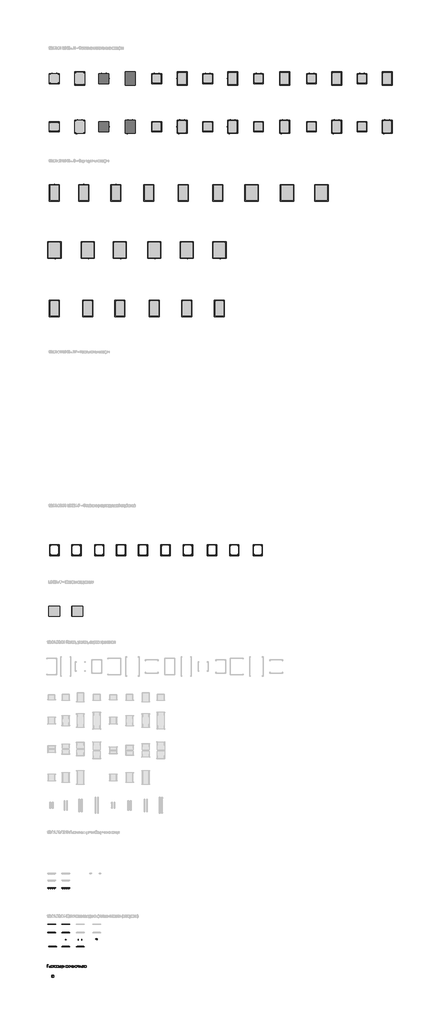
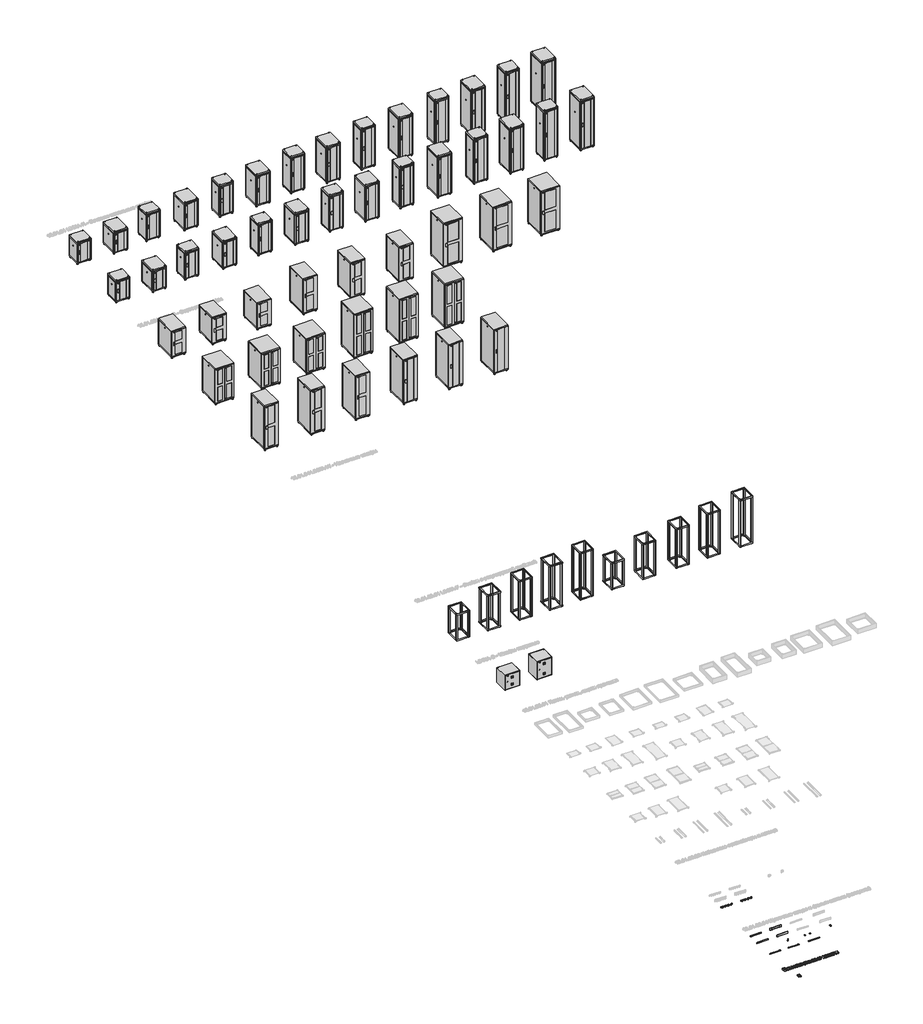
# One storey, part 1 of 9: 76 proxies.
"""IFC4 building model written with IfcOpenShell, lengths in millimetres."""

from ifc_helpers import new_model, si_unit, origin, origin_with_axes, place, context, project, spatial, polyline, outline, extrude, transform, mapped, element, save
from components import electrical_fixtures_c305319c, electrical_fixtures_d6580d29, electrical_fixtures_b4728678, electrical_fixtures_91b9e2a3, electrical_fixtures_15804688, electrical_fixtures_75ca786f, electrical_fixtures_de25d446, electrical_fixtures_8923b778, electrical_fixtures_70bab674, electrical_fixtures_7b50809f, electrical_fixtures_48f60a17, electrical_fixtures_600f5bc7, electrical_fixtures_49b3f98a, electrical_fixtures_ca1bb77e, electrical_fixtures_196bb8f5, electrical_fixtures_9c712314, electrical_fixtures_cc810546, electrical_fixtures_5be799dd, electrical_fixtures_3db55504, electrical_fixtures_a33d25a8, electrical_fixtures_9127867a, generic_models_4512c85f, electrical_fixtures_315027d0, electrical_fixtures_e7b4683d, electrical_fixtures_008fe8da, electrical_fixtures_b37db52b, electrical_fixtures_dada5d97, electrical_fixtures_ec9818e4, electrical_fixtures_1a1d356b, ad05_01u_ed793cdc, be05_01u_52b54abc, be05_02u_7d84ed24, c_1_d9d45bc0, co05_2m4r_d7d3fd6c, er_12_f8e3c18a, er_12_4c35d67a, er_12_a8c64b64, er_12_ffd7bff1, fp05_01u_f00bcd1a, fp05_02u_35c9f280, le05_1u1_5d76734b, lf_80_13a86379

model = new_model("IFC4")

# Units and contexts
model_context = context("Model", 3, world=origin())
ifc_project = project(units=[si_unit("LENGTHUNIT", "METRE", prefix="MILLI")], contexts=[model_context])

# Site, building, storey
site = spatial("IfcSite", under=ifc_project)
building = spatial("IfcBuilding", under=site)
storey = spatial("IfcBuildingStorey", under=building, Name="Уровень 1", Elevation=0.0)

# Proxies
placement = place(None, origin())
element("IfcBuildingElementProxy", 1, Name="Надпись на модели 1", ObjectType="Надпись на модели 1", at=placement, inside=storey, context=model_context, shape_type="SweptSolid", body=[
    extrude(outline(polyline([(-45406.7364088, -45092.1712032), (-45406.7364088, -44944.4788955), (-45350.3782357, -44944.4788955), (-45322.7760722, -44948.8238474), (-45313.5002309, -44954.3361671), (-45306.4779953, -44962.1832224), (-45300.5825626, -44981.0774532), (-45305.5404953, -44998.3310589), (-45320.5224665, -45011.4019724), (-45310.0612285, -45016.8647128), (-45302.3313607, -45025.1760109), (-45297.5582237, -45035.7859868), (-45295.967178, -45048.1447609), (-45300.3121299, -45067.9945205), (-45311.0753511, -45082.1291359), (-45327.139053, -45089.6291359), (-45350.810928, -45092.1712032), (-45406.7364088, -45092.1712032)]), holes=[polyline([(-45388.2748703, -45004.4788955), (-45354.560928, -45004.4788955), (-45334.873428, -45002.892357), (-45323.0284761, -44996.0594243), (-45319.0441011, -44984.0341839), (-45322.7580434, -44971.9909147), (-45333.3950626, -44964.8695205), (-45357.1210242, -44962.9404339), (-45388.2748703, -44962.9404339), (-45388.2748703, -45004.4788955)]), polyline([(-45388.2748703, -45073.7096647), (-45350.4142934, -45073.7096647), (-45336.7123703, -45072.9885109), (-45325.1198222, -45068.9680782), (-45317.4395338, -45060.7649532), (-45314.4287165, -45048.3250493), (-45317.9623703, -45033.9740878), (-45329.4106876, -45025.4103859), (-45352.217178, -45022.9404339), (-45388.2748703, -45022.9404339), (-45388.2748703, -45073.7096647)])]), origin_with_axes(), (0.0, 0.0, 1.0), 50.0),
    extrude(outline(polyline([(-45196.9527549, -45059.8635109), (-45178.8517934, -45062.1712032), (-45185.3737285, -45075.8100253), (-45195.7808799, -45086.0053378), (-45209.8388727, -45092.3605061), (-45227.3133319, -45094.4788955), (-45248.9749905, -45090.8235469), (-45265.6426588, -45079.8575012), (-45276.2706636, -45062.2928979), (-45279.8133319, -45038.8418762), (-45276.2346059, -45014.6020926), (-45265.498428, -44996.4740878), (-45249.0561203, -44985.1700012), (-45228.3590049, -44981.4019724), (-45208.3064208, -44985.1609868), (-45192.2832838, -44996.4380301), (-45181.7769737, -45014.5299772), (-45178.2748703, -45038.7337032), (-45178.3830434, -45043.7096647), (-45261.3517934, -45043.7096647), (-45258.1561804, -45057.5287753), (-45250.732803, -45067.6880301), (-45240.0191612, -45073.9350253), (-45226.9527549, -45076.017357), (-45208.8517934, -45072.1591839), (-45196.9527549, -45059.8635109)]), holes=[polyline([(-45261.3517934, -45025.2481262), (-45196.7364088, -45025.2481262), (-45199.233404, -45015.4945205), (-45204.1282357, -45008.517357), (-45214.8914569, -45002.0269724), (-45228.4311203, -44999.8635109), (-45240.8755314, -45001.5897729), (-45251.1654953, -45006.7685589), (-45258.31844, -45014.8409748), (-45261.3517934, -45025.2481262)])]), origin_with_axes(), (0.0, 0.0, 1.0), 50.0),
    extrude(outline(polyline([(-45159.8133319, -44983.7096647), (-45141.3517934, -44983.7096647), (-45141.3517934, -45025.2481262), (-45092.8902549, -45025.2481262), (-45092.8902549, -44983.7096647), (-45074.4287165, -44983.7096647), (-45074.4287165, -45092.1712032), (-45092.8902549, -45092.1712032), (-45092.8902549, -45043.7096647), (-45141.3517934, -45043.7096647), (-45141.3517934, -45092.1712032), (-45159.8133319, -45092.1712032), (-45159.8133319, -44983.7096647)])), origin_with_axes(), (0.0, 0.0, 1.0), 50.0),
    extrude(outline(polyline([(-45055.967178, -44983.7096647), (-44968.2748703, -44983.7096647), (-44968.2748703, -45002.1712032), (-45002.8902549, -45002.1712032), (-45002.8902549, -45092.1712032), (-45021.3517934, -45092.1712032), (-45021.3517934, -45002.1712032), (-45055.967178, -45002.1712032), (-45055.967178, -44983.7096647)])), origin_with_axes(), (0.0, 0.0, 1.0), 50.0),
    extrude(outline(polyline([(-44952.1210242, -44983.7096647), (-44933.6594857, -44983.7096647), (-44933.6594857, -45066.4260109), (-44888.2989088, -44983.7096647), (-44864.4287165, -44983.7096647), (-44864.4287165, -45092.1712032), (-44882.8902549, -45092.1712032), (-44882.8902549, -45009.9596647), (-44927.9623703, -45092.1712032), (-44952.1210242, -45092.1712032), (-44952.1210242, -44983.7096647)])), origin_with_axes(), (0.0, 0.0, 1.0), 50.0),
    extrude(outline(polyline([(-44827.5056395, -44983.7096647), (-44744.4287165, -44983.7096647), (-44744.4287165, -45092.0630301), (-44762.8902549, -45092.0630301), (-44762.8902549, -45002.1712032), (-44809.0441011, -45002.1712032), (-44809.0441011, -45053.9139916), (-44810.2880915, -45077.7841839), (-44817.1210242, -45087.8623089), (-44833.2748703, -45092.1712032), (-44848.2748703, -45091.2337032), (-44848.2748703, -45073.7096647), (-44840.0176588, -45073.7096647), (-44831.670303, -45072.5738474), (-44828.3349665, -45068.9680782), (-44827.5056395, -45052.8683186), (-44827.5056395, -44983.7096647)])), origin_with_axes(), (0.0, 0.0, 1.0), 50.0),
    extrude(outline(polyline([(-44633.6594857, -44983.7096647), (-44633.6594857, -45092.1712032), (-44652.1210242, -45092.1712032), (-44652.1210242, -45050.6327416), (-44662.1811203, -45050.6327416), (-44675.8830434, -45052.9764916), (-44688.7556395, -45068.7337032), (-44703.467178, -45092.1712032), (-44724.8133319, -45092.1712032), (-44706.279678, -45062.5317801), (-44698.0945819, -45051.8947609), (-44690.5585242, -45047.1712032), (-44703.1787165, -45043.3040157), (-44712.0489088, -45035.9572609), (-44717.295303, -45026.1856262), (-44719.0441011, -45015.0437993), (-44716.655279, -45002.4055782), (-44709.4888126, -44992.3995686), (-44697.7971059, -44985.8821407), (-44681.8325626, -44983.7096647), (-44633.6594857, -44983.7096647)]), holes=[polyline([(-44652.1210242, -45002.1712032), (-44676.4599665, -45002.1712032), (-44689.0305794, -45003.2394123), (-44696.1654953, -45006.4440397), (-44700.5825626, -45016.4500493), (-44698.9554593, -45023.4858065), (-44694.0741492, -45028.3671166), (-44671.0152549, -45032.1712032), (-44652.1210242, -45032.1712032), (-44652.1210242, -45002.1712032)])]), origin_with_axes(), (0.0, 0.0, 1.0), 50.0),
    extrude(outline(polyline([(-44605.967178, -44983.7096647), (-44587.5056395, -44983.7096647), (-44587.5056395, -45073.7096647), (-44534.4287165, -45073.7096647), (-44534.4287165, -44983.7096647), (-44515.967178, -44983.7096647), (-44515.967178, -45073.7096647), (-44504.4287165, -45073.7096647), (-44504.4287165, -45122.1712032), (-44522.8902549, -45122.1712032), (-44522.8902549, -45092.1712032), (-44605.967178, -45092.1712032), (-44605.967178, -44983.7096647)])), origin_with_axes(), (0.0, 0.0, 1.0), 50.0),
    extrude(outline(polyline([(-44488.2748703, -44983.7096647), (-44469.8133319, -44983.7096647), (-44469.8133319, -45066.4260109), (-44424.4527549, -44983.7096647), (-44400.5825626, -44983.7096647), (-44400.5825626, -45092.1712032), (-44419.0441011, -45092.1712032), (-44419.0441011, -45009.9596647), (-44464.1162165, -45092.1712032), (-44488.2748703, -45092.1712032), (-44488.2748703, -44983.7096647)])), origin_with_axes(), (0.0, 0.0, 1.0), 50.0),
    extrude(outline(polyline([(-44377.5056395, -45037.9404339), (-44373.5122501, -45011.7895926), (-44361.5320819, -44993.4091839), (-44346.7303992, -44984.4037753), (-44329.0080434, -44981.4019724), (-44309.6135121, -44985.057321), (-44294.1222261, -44996.0233666), (-44283.9674785, -45013.4347248), (-44280.5825626, -45036.4260109), (-44282.0789569, -45055.0768522), (-44286.5681395, -45069.2745686), (-44293.9194016, -45079.9070806), (-44304.0020338, -45087.8623089), (-44315.9776948, -45092.8247488), (-44329.0080434, -45094.4788955), (-44348.6369496, -45090.8370686), (-44364.1102069, -45079.9115878), (-44374.1567814, -45062.1351455), (-44377.5056395, -45037.9404339)]), holes=[polyline([(-44359.0441011, -45037.9043762), (-44356.9076828, -45054.6126094), (-44350.498428, -45066.5161551), (-44340.8529953, -45073.6420565), (-44329.0080434, -45076.017357), (-44317.217178, -45073.6285349), (-44307.5897742, -45066.4620686), (-44301.1805194, -45054.4007705), (-44299.0441011, -45037.3274532), (-44301.194041, -45021.1059988), (-44307.6438607, -45009.3647128), (-44317.2847862, -45002.2388113), (-44329.0080434, -44999.8635109), (-44340.8529953, -45002.2297969), (-44350.498428, -45009.3286551), (-44356.9076828, -45021.2051575), (-44359.0441011, -45037.9043762)])]), origin_with_axes(), (0.0, 0.0, 1.0), 50.0),
    extrude(outline(polyline([(-44259.8133319, -44983.7096647), (-44241.3517934, -44983.7096647), (-44241.3517934, -45025.2481262), (-44192.8902549, -45025.2481262), (-44192.8902549, -44983.7096647), (-44174.4287165, -44983.7096647), (-44174.4287165, -45092.1712032), (-44192.8902549, -45092.1712032), (-44192.8902549, -45043.7096647), (-44241.3517934, -45043.7096647), (-44241.3517934, -45092.1712032), (-44259.8133319, -45092.1712032), (-44259.8133319, -44983.7096647)])), origin_with_axes(), (0.0, 0.0, 1.0), 50.0),
    extrude(outline(polyline([(-44146.7364088, -44983.7096647), (-44128.2748703, -44983.7096647), (-44128.2748703, -45025.2481262), (-44079.8133319, -45025.2481262), (-44079.8133319, -44983.7096647), (-44061.3517934, -44983.7096647), (-44061.3517934, -45092.1712032), (-44079.8133319, -45092.1712032), (-44079.8133319, -45043.7096647), (-44128.2748703, -45043.7096647), (-44128.2748703, -45092.1712032), (-44146.7364088, -45092.1712032), (-44146.7364088, -44983.7096647)])), origin_with_axes(), (0.0, 0.0, 1.0), 50.0),
    extrude(outline(polyline([(-44033.6594857, -44983.7096647), (-44015.1979472, -44983.7096647), (-44015.1979472, -45022.9404339), (-43992.373428, -45022.9404339), (-43972.6453631, -45025.2526335), (-43958.0284761, -45032.189232), (-43948.9825025, -45043.1913354), (-43945.967178, -45057.7000493), (-43948.4957237, -45070.9106863), (-43956.0813607, -45082.0570205), (-43969.2198823, -45089.6426575), (-43988.4070819, -45092.1712032), (-44033.6594857, -45092.1712032), (-44033.6594857, -44983.7096647)]), holes=[polyline([(-44015.1979472, -45073.7096647), (-43996.2316011, -45073.7096647), (-43971.748428, -45069.8334628), (-43966.2586444, -45064.8710229), (-43964.4287165, -45057.736107), (-43969.8553992, -45046.3779339), (-43978.5588246, -45042.6459628), (-43993.8157357, -45041.4019724), (-44015.1979472, -45041.4019724), (-44015.1979472, -45073.7096647)])]), origin_with_axes(), (0.0, 0.0, 1.0), 50.0),
    extrude(outline(polyline([(-43932.1210242, -44983.7096647), (-43913.6594857, -44983.7096647), (-43913.6594857, -45092.1712032), (-43932.1210242, -45092.1712032), (-43932.1210242, -44983.7096647)])), origin_with_axes(), (0.0, 0.0, 1.0), 50.0),
    extrude(outline(polyline([(-43810.029678, -45059.8635109), (-43791.9287165, -45062.1712032), (-43798.4506516, -45075.8100253), (-43808.857803, -45086.0053378), (-43822.9157958, -45092.3605061), (-43840.3902549, -45094.4788955), (-43862.0519136, -45090.8235469), (-43878.7195819, -45079.8575012), (-43889.3475867, -45062.2928979), (-43892.8902549, -45038.8418762), (-43889.311529, -45014.6020926), (-43878.5753511, -44996.4740878), (-43862.1330434, -44985.1700012), (-43841.435928, -44981.4019724), (-43821.3833439, -44985.1609868), (-43805.3602069, -44996.4380301), (-43794.8538968, -45014.5299772), (-43791.3517934, -45038.7337032), (-43791.4599665, -45043.7096647), (-43874.4287165, -45043.7096647), (-43871.2331035, -45057.5287753), (-43863.8097261, -45067.6880301), (-43853.0960843, -45073.9350253), (-43840.029678, -45076.017357), (-43821.9287165, -45072.1591839), (-43810.029678, -45059.8635109)]), holes=[polyline([(-43874.4287165, -45025.2481262), (-43809.8133319, -45025.2481262), (-43812.310327, -45015.4945205), (-43817.2051588, -45008.517357), (-43827.9683799, -45002.0269724), (-43841.5080434, -44999.8635109), (-43853.9524544, -45001.5897729), (-43864.2424184, -45006.7685589), (-43871.3953631, -45014.8409748), (-43874.4287165, -45025.2481262)])]), origin_with_axes(), (0.0, 0.0, 1.0), 50.0),
    extrude(outline(polyline([(-43715.1979472, -44983.7096647), (-43632.1210242, -44983.7096647), (-43632.1210242, -45092.1712032), (-43650.5825626, -45092.1712032), (-43650.5825626, -45002.1712032), (-43696.7364088, -45002.1712032), (-43696.7364088, -45092.1712032), (-43715.1979472, -45092.1712032), (-43715.1979472, -44983.7096647)])), origin_with_axes(), (0.0, 0.0, 1.0), 50.0),
    extrude(outline(polyline([(-43535.1979472, -45078.3250493), (-43553.1005915, -45090.8370686), (-43572.8782357, -45094.4788955), (-43588.3064208, -45092.2883907), (-43599.6871299, -45085.7168762), (-43606.7048583, -45075.7379099), (-43609.0441011, -45063.3250493), (-43605.5104472, -45048.7216839), (-43596.2255915, -45038.1207224), (-43583.2989088, -45032.0630301), (-43567.3253511, -45029.2865878), (-43535.3061203, -45022.9404339), (-43535.1979472, -45018.829857), (-43536.4689809, -45010.5906743), (-43540.2820819, -45005.2000493), (-43548.8097261, -45001.1976455), (-43560.6907357, -44999.8635109), (-43579.3686203, -45003.4151936), (-43588.2748703, -45016.017357), (-43606.7364088, -45013.7096647), (-43598.7496299, -44995.6808186), (-43582.6678992, -44985.1159147), (-43558.310928, -44981.4019724), (-43535.9371299, -44984.6832224), (-43523.2989088, -44992.9224051), (-43517.6378511, -45005.4524532), (-43516.7364088, -45021.6062993), (-43516.7364088, -45044.5750493), (-43515.7989088, -45076.6483666), (-43512.1210242, -45092.1712032), (-43530.5825626, -45092.1712032), (-43535.1979472, -45078.3250493)]), holes=[polyline([(-43535.1979472, -45041.4019724), (-43564.9816011, -45047.0630301), (-43580.8650145, -45050.0558186), (-43588.0585242, -45054.923607), (-43590.5825626, -45062.0269724), (-43585.0837645, -45072.0149532), (-43568.9479472, -45076.017357), (-43550.2700626, -45071.6002897), (-43538.2267934, -45060.9091839), (-43535.3061203, -45046.6303378), (-43535.1979472, -45041.4019724)])]), origin_with_axes(), (0.0, 0.0, 1.0), 50.0),
    extrude(outline(polyline([(-43491.3517934, -44983.7096647), (-43472.8902549, -44983.7096647), (-43472.8902549, -45025.2481262), (-43424.4287165, -45025.2481262), (-43424.4287165, -44983.7096647), (-43405.967178, -44983.7096647), (-43405.967178, -45092.1712032), (-43424.4287165, -45092.1712032), (-43424.4287165, -45043.7096647), (-43472.8902549, -45043.7096647), (-43472.8902549, -45092.1712032), (-43491.3517934, -45092.1712032), (-43491.3517934, -44983.7096647)])), origin_with_axes(), (0.0, 0.0, 1.0), 50.0),
    extrude(outline(polyline([(-43302.3373703, -45059.8635109), (-43284.2364088, -45062.1712032), (-43290.7583439, -45075.8100253), (-43301.1654953, -45086.0053378), (-43315.2234881, -45092.3605061), (-43332.6979472, -45094.4788955), (-43354.3596059, -45090.8235469), (-43371.0272742, -45079.8575012), (-43381.655279, -45062.2928979), (-43385.1979472, -45038.8418762), (-43381.6192213, -45014.6020926), (-43370.8830434, -44996.4740878), (-43354.4407357, -44985.1700012), (-43333.7436203, -44981.4019724), (-43313.6910362, -44985.1609868), (-43297.6678992, -44996.4380301), (-43287.1615891, -45014.5299772), (-43283.6594857, -45038.7337032), (-43283.7676588, -45043.7096647), (-43366.7364088, -45043.7096647), (-43363.5407958, -45057.5287753), (-43356.1174184, -45067.6880301), (-43345.4037766, -45073.9350253), (-43332.3373703, -45076.017357), (-43314.2364088, -45072.1591839), (-43302.3373703, -45059.8635109)]), holes=[polyline([(-43366.7364088, -45025.2481262), (-43302.1210242, -45025.2481262), (-43304.6180194, -45015.4945205), (-43309.5128511, -45008.517357), (-43320.2760722, -45002.0269724), (-43333.8157357, -44999.8635109), (-43346.2601468, -45001.5897729), (-43356.5501107, -45006.7685589), (-43363.7030554, -45014.8409748), (-43366.7364088, -45025.2481262)])]), origin_with_axes(), (0.0, 0.0, 1.0), 50.0),
    extrude(outline(polyline([(-43255.967178, -44983.7096647), (-43172.8902549, -44983.7096647), (-43172.8902549, -45092.0630301), (-43191.3517934, -45092.0630301), (-43191.3517934, -45002.1712032), (-43237.5056395, -45002.1712032), (-43237.5056395, -45053.9139916), (-43238.7496299, -45077.7841839), (-43245.5825626, -45087.8623089), (-43261.7364088, -45092.1712032), (-43276.7364088, -45091.2337032), (-43276.7364088, -45073.7096647), (-43268.4791972, -45073.7096647), (-43260.1318415, -45072.5738474), (-43256.7965049, -45068.9680782), (-43255.967178, -45052.8683186), (-43255.967178, -44983.7096647)])), origin_with_axes(), (0.0, 0.0, 1.0), 50.0),
    extrude(outline(polyline([(-43145.1979472, -44983.7096647), (-43126.7364088, -44983.7096647), (-43126.7364088, -45066.4260109), (-43081.3758319, -44983.7096647), (-43057.5056395, -44983.7096647), (-43057.5056395, -45092.1712032), (-43075.967178, -45092.1712032), (-43075.967178, -45009.9596647), (-43121.0392934, -45092.1712032), (-43145.1979472, -45092.1712032), (-43145.1979472, -44983.7096647)])), origin_with_axes(), (0.0, 0.0, 1.0), 50.0),
])
electrical_fixtures_shape = electrical_fixtures_c305319c(model_context)
element("IfcBuildingElementProxy", 2, Name="Шкафы ITK серия N_35 : LN35-18U66-G", ObjectType="Шкафы ITK серия N_35 : LN35-18U66-G", at=placement, inside=storey, context=model_context, shape_type="MappedRepresentation", body=[
    mapped(electrical_fixtures_shape, transform((-44976.5734858, 5523.0487173, 0.0), x_axis=(1.0, 0.0, 0.0), y_axis=(0.0, 1.0, 0.0), z_axis=(0.0, 0.0, 1.0))),
])
electrical_fixtures_2_shape = electrical_fixtures_d6580d29(model_context)
element("IfcBuildingElementProxy", 3, Name="Шкафы ITK серия N_35 : LN35-18U68-G", ObjectType="Шкафы ITK серия N_35 : LN35-18U68-G", at=placement, inside=storey, context=model_context, shape_type="MappedRepresentation", body=[
    mapped(electrical_fixtures_2_shape, transform((-43450.3938969, 5523.0487173, 0.0), x_axis=(1.0, 0.0, 0.0), y_axis=(0.0, 1.0, 0.0), z_axis=(0.0, 0.0, 1.0))),
])
electrical_fixtures_3_shape = electrical_fixtures_b4728678(model_context)
element("IfcBuildingElementProxy", 4, Name="Шкафы ITK серия N_35 : LN35-24U66-G", ObjectType="Шкафы ITK серия N_35 : LN35-24U66-G", at=placement, inside=storey, context=model_context, shape_type="MappedRepresentation", body=[
    mapped(electrical_fixtures_3_shape, transform((-41994.4800559, 5523.0487173, 0.0), x_axis=(1.0, 0.0, 0.0), y_axis=(0.0, 1.0, 0.0), z_axis=(0.0, 0.0, 1.0))),
])
electrical_fixtures_4_shape = electrical_fixtures_91b9e2a3(model_context)
element("IfcBuildingElementProxy", 5, Name="Шкафы ITK серия N_35 : LN35-24U68-G", ObjectType="Шкафы ITK серия N_35 : LN35-24U68-G", at=placement, inside=storey, context=model_context, shape_type="MappedRepresentation", body=[
    mapped(electrical_fixtures_4_shape, transform((-40406.3402912, 5523.0487173, 0.0), x_axis=(1.0, 0.0, 0.0), y_axis=(0.0, 1.0, 0.0), z_axis=(0.0, 0.0, 1.0))),
])
electrical_fixtures_5_shape = electrical_fixtures_15804688(model_context)
element("IfcBuildingElementProxy", 6, Name="Шкафы ITK серия N_35 : LN35-28U66-G", ObjectType="Шкафы ITK серия N_35 : LN35-28U66-G", at=placement, inside=storey, context=model_context, shape_type="MappedRepresentation", body=[
    mapped(electrical_fixtures_5_shape, transform((-38819.8616409, 5523.0487173, 0.0), x_axis=(1.0, 0.0, 0.0), y_axis=(0.0, 1.0, 0.0), z_axis=(0.0, 0.0, 1.0))),
])
electrical_fixtures_6_shape = electrical_fixtures_75ca786f(model_context)
element("IfcBuildingElementProxy", 7, Name="Шкафы ITK серия N_35 : LN35-28U68-G", ObjectType="Шкафы ITK серия N_35 : LN35-28U68-G", at=placement, inside=storey, context=model_context, shape_type="MappedRepresentation", body=[
    mapped(electrical_fixtures_6_shape, transform((-37287.2700287, 5523.0487173, 0.0), x_axis=(1.0, 0.0, 0.0), y_axis=(0.0, 1.0, 0.0), z_axis=(0.0, 0.0, 1.0))),
])
electrical_fixtures_7_shape = electrical_fixtures_de25d446(model_context)
element("IfcBuildingElementProxy", 8, Name="Шкафы ITK серия N_35 : LN35-33U66-G", ObjectType="Шкафы ITK серия N_35 : LN35-33U66-G", at=placement, inside=storey, context=model_context, shape_type="MappedRepresentation", body=[
    mapped(electrical_fixtures_7_shape, transform((-35739.9608212, 5523.0487173, 0.0), x_axis=(1.0, 0.0, 0.0), y_axis=(0.0, 1.0, 0.0), z_axis=(0.0, 0.0, 1.0))),
])
electrical_fixtures_8_shape = electrical_fixtures_8923b778(model_context)
element("IfcBuildingElementProxy", 9, Name="Шкафы ITK серия N_35 : LN35-33U68-G", ObjectType="Шкафы ITK серия N_35 : LN35-33U68-G", at=placement, inside=storey, context=model_context, shape_type="MappedRepresentation", body=[
    mapped(electrical_fixtures_8_shape, transform((-34248.1997662, 5523.0487173, 0.0), x_axis=(1.0, 0.0, 0.0), y_axis=(0.0, 1.0, 0.0), z_axis=(0.0, 0.0, 1.0))),
])
electrical_fixtures_9_shape = electrical_fixtures_70bab674(model_context)
element("IfcBuildingElementProxy", 10, Name="Шкафы ITK серия N_35 : LN35-38U66-G", ObjectType="Шкафы ITK серия N_35 : LN35-38U66-G", at=placement, inside=storey, context=model_context, shape_type="MappedRepresentation", body=[
    mapped(electrical_fixtures_9_shape, transform((-32686.1729634, 5523.0487173, 0.0), x_axis=(1.0, 0.0, 0.0), y_axis=(0.0, 1.0, 0.0), z_axis=(0.0, 0.0, 1.0))),
])
electrical_fixtures_10_shape = electrical_fixtures_7b50809f(model_context)
element("IfcBuildingElementProxy", 11, Name="Шкафы ITK серия N_35 : LN35-38U68-G", ObjectType="Шкафы ITK серия N_35 : LN35-38U68-G", at=placement, inside=storey, context=model_context, shape_type="MappedRepresentation", body=[
    mapped(electrical_fixtures_10_shape, transform((-31111.0896796, 5523.0487173, 0.0), x_axis=(1.0, 0.0, 0.0), y_axis=(0.0, 1.0, 0.0), z_axis=(0.0, 0.0, 1.0))),
])
electrical_fixtures_11_shape = electrical_fixtures_48f60a17(model_context)
element("IfcBuildingElementProxy", 12, Name="Шкафы ITK серия N_35 : LN35-42U66-G", ObjectType="Шкафы ITK серия N_35 : LN35-42U66-G", at=placement, inside=storey, context=model_context, shape_type="MappedRepresentation", body=[
    mapped(electrical_fixtures_11_shape, transform((-29495.1758386, 5523.0487173, 0.0), x_axis=(1.0, 0.0, 0.0), y_axis=(0.0, 1.0, 0.0), z_axis=(0.0, 0.0, 1.0))),
])
electrical_fixtures_12_shape = electrical_fixtures_600f5bc7(model_context)
element("IfcBuildingElementProxy", 13, Name="Шкафы ITK серия N_35 : LN35-47U66-G", ObjectType="Шкафы ITK серия N_35 : LN35-47U66-G", at=placement, inside=storey, context=model_context, shape_type="MappedRepresentation", body=[
    mapped(electrical_fixtures_12_shape, transform((-26455.1758386, 5523.0487173, 0.0), x_axis=(1.0, 0.0, 0.0), y_axis=(0.0, 1.0, 0.0), z_axis=(0.0, 0.0, 1.0))),
])
electrical_fixtures_13_shape = electrical_fixtures_49b3f98a(model_context)
element("IfcBuildingElementProxy", 14, Name="Шкафы ITK серия N_35 : LN35-42U68-G", ObjectType="Шкафы ITK серия N_35 : LN35-42U68-G", at=placement, inside=storey, context=model_context, shape_type="MappedRepresentation", body=[
    mapped(electrical_fixtures_13_shape, transform((-27983.7138451, 5523.0487173, 0.0), x_axis=(1.0, 0.0, 0.0), y_axis=(0.0, 1.0, 0.0), z_axis=(0.0, 0.0, 1.0))),
])
electrical_fixtures_14_shape = electrical_fixtures_ca1bb77e(model_context)
element("IfcBuildingElementProxy", 15, Name="Шкафы ITK серия N_35 : LN35-47U68-G", ObjectType="Шкафы ITK серия N_35 : LN35-47U68-G", at=placement, inside=storey, context=model_context, shape_type="MappedRepresentation", body=[
    mapped(electrical_fixtures_14_shape, transform((-24943.7138451, 5523.0487173, 0.0), x_axis=(1.0, 0.0, 0.0), y_axis=(0.0, 1.0, 0.0), z_axis=(0.0, 0.0, 1.0))),
])
element("IfcBuildingElementProxy", 16, Name="Шкафы ITK серия N_05 : LN05-18U66-G", ObjectType="Шкафы ITK серия N_05 : LN05-18U66-G", at=placement, inside=storey, context=model_context, shape_type="MappedRepresentation", body=[
    mapped(electrical_fixtures_shape, transform((-44976.5734858, 8423.0487173, 0.0), x_axis=(1.0, 0.0, 0.0), y_axis=(0.0, 1.0, 0.0), z_axis=(0.0, 0.0, 1.0))),
])
element("IfcBuildingElementProxy", 17, Name="Шкафы ITK серия N_05 : LN05-18U68-G", ObjectType="Шкафы ITK серия N_05 : LN05-18U68-G", at=placement, inside=storey, context=model_context, shape_type="MappedRepresentation", body=[
    mapped(electrical_fixtures_2_shape, transform((-43450.3938969, 8423.0487173, 0.0), x_axis=(1.0, 0.0, 0.0), y_axis=(0.0, 1.0, 0.0), z_axis=(0.0, 0.0, 1.0))),
])
element("IfcBuildingElementProxy", 18, Name="Шкафы ITK серия N_05 : LN05-24U66-G", ObjectType="Шкафы ITK серия N_05 : LN05-24U66-G", at=placement, inside=storey, context=model_context, shape_type="MappedRepresentation", body=[
    mapped(electrical_fixtures_3_shape, transform((-41994.4800559, 8423.0487173, 0.0), x_axis=(1.0, 0.0, 0.0), y_axis=(0.0, 1.0, 0.0), z_axis=(0.0, 0.0, 1.0))),
])
element("IfcBuildingElementProxy", 19, Name="Шкафы ITK серия N_05 : LN05-24U68-G", ObjectType="Шкафы ITK серия N_05 : LN05-24U68-G", at=placement, inside=storey, context=model_context, shape_type="MappedRepresentation", body=[
    mapped(electrical_fixtures_4_shape, transform((-40406.3402912, 8423.0487173, 0.0), x_axis=(1.0, 0.0, 0.0), y_axis=(0.0, 1.0, 0.0), z_axis=(0.0, 0.0, 1.0))),
])
element("IfcBuildingElementProxy", 20, Name="Шкафы ITK серия N_05 : LN05-28U66-G", ObjectType="Шкафы ITK серия N_05 : LN05-28U66-G", at=placement, inside=storey, context=model_context, shape_type="MappedRepresentation", body=[
    mapped(electrical_fixtures_5_shape, transform((-38819.8616409, 8423.0487173, 0.0), x_axis=(1.0, 0.0, 0.0), y_axis=(0.0, 1.0, 0.0), z_axis=(0.0, 0.0, 1.0))),
])
element("IfcBuildingElementProxy", 21, Name="Шкафы ITK серия N_05 : LN05-28U68-G", ObjectType="Шкафы ITK серия N_05 : LN05-28U68-G", at=placement, inside=storey, context=model_context, shape_type="MappedRepresentation", body=[
    mapped(electrical_fixtures_6_shape, transform((-37287.2700287, 8423.0487173, 0.0), x_axis=(1.0, 0.0, 0.0), y_axis=(0.0, 1.0, 0.0), z_axis=(0.0, 0.0, 1.0))),
])
element("IfcBuildingElementProxy", 22, Name="Шкафы ITK серия N_05 : LN05-33U66-G", ObjectType="Шкафы ITK серия N_05 : LN05-33U66-G", at=placement, inside=storey, context=model_context, shape_type="MappedRepresentation", body=[
    mapped(electrical_fixtures_7_shape, transform((-35739.9608212, 8423.0487173, 0.0), x_axis=(1.0, 0.0, 0.0), y_axis=(0.0, 1.0, 0.0), z_axis=(0.0, 0.0, 1.0))),
])
element("IfcBuildingElementProxy", 23, Name="Шкафы ITK серия N_05 : LN05-33U68-G", ObjectType="Шкафы ITK серия N_05 : LN05-33U68-G", at=placement, inside=storey, context=model_context, shape_type="MappedRepresentation", body=[
    mapped(electrical_fixtures_8_shape, transform((-34248.1997662, 8423.0487173, 0.0), x_axis=(1.0, 0.0, 0.0), y_axis=(0.0, 1.0, 0.0), z_axis=(0.0, 0.0, 1.0))),
])
element("IfcBuildingElementProxy", 24, Name="Шкафы ITK серия N_05 : LN05-38U66-G", ObjectType="Шкафы ITK серия N_05 : LN05-38U66-G", at=placement, inside=storey, context=model_context, shape_type="MappedRepresentation", body=[
    mapped(electrical_fixtures_9_shape, transform((-32686.1729634, 8423.0487173, 0.0), x_axis=(1.0, 0.0, 0.0), y_axis=(0.0, 1.0, 0.0), z_axis=(0.0, 0.0, 1.0))),
])
element("IfcBuildingElementProxy", 25, Name="Шкафы ITK серия N_05 : LN05-38U68-G", ObjectType="Шкафы ITK серия N_05 : LN05-38U68-G", at=placement, inside=storey, context=model_context, shape_type="MappedRepresentation", body=[
    mapped(electrical_fixtures_10_shape, transform((-31111.0896796, 8423.0487173, 0.0), x_axis=(1.0, 0.0, 0.0), y_axis=(0.0, 1.0, 0.0), z_axis=(0.0, 0.0, 1.0))),
])
element("IfcBuildingElementProxy", 26, Name="Шкафы ITK серия N_05 : LN05-42U66-G", ObjectType="Шкафы ITK серия N_05 : LN05-42U66-G", at=placement, inside=storey, context=model_context, shape_type="MappedRepresentation", body=[
    mapped(electrical_fixtures_11_shape, transform((-29495.1758386, 8423.0487173, 0.0), x_axis=(1.0, 0.0, 0.0), y_axis=(0.0, 1.0, 0.0), z_axis=(0.0, 0.0, 1.0))),
])
element("IfcBuildingElementProxy", 27, Name="Шкафы ITK серия N_05 : LN05-47U66-G", ObjectType="Шкафы ITK серия N_05 : LN05-47U66-G", at=placement, inside=storey, context=model_context, shape_type="MappedRepresentation", body=[
    mapped(electrical_fixtures_12_shape, transform((-26455.1758386, 8423.0487173, 0.0), x_axis=(1.0, 0.0, 0.0), y_axis=(0.0, 1.0, 0.0), z_axis=(0.0, 0.0, 1.0))),
])
element("IfcBuildingElementProxy", 28, Name="Шкафы ITK серия N_05 : LN05-42U68-G", ObjectType="Шкафы ITK серия N_05 : LN05-42U68-G", at=placement, inside=storey, context=model_context, shape_type="MappedRepresentation", body=[
    mapped(electrical_fixtures_13_shape, transform((-27983.7138451, 8423.0487173, 0.0), x_axis=(1.0, 0.0, 0.0), y_axis=(0.0, 1.0, 0.0), z_axis=(0.0, 0.0, 1.0))),
])
element("IfcBuildingElementProxy", 29, Name="Шкафы ITK серия N_05 : LN05-47U68-G", ObjectType="Шкафы ITK серия N_05 : LN05-47U68-G", at=placement, inside=storey, context=model_context, shape_type="MappedRepresentation", body=[
    mapped(electrical_fixtures_14_shape, transform((-24943.7138451, 8423.0487173, 0.0), x_axis=(1.0, 0.0, 0.0), y_axis=(0.0, 1.0, 0.0), z_axis=(0.0, 0.0, 1.0))),
])
electrical_fixtures_15_shape = electrical_fixtures_196bb8f5(model_context)
element("IfcBuildingElementProxy", 30, Name="Шкафы ITK серия F : LF05-24U68-2R", ObjectType="Шкафы ITK серия F : LF05-24U68-2R", at=placement, inside=storey, context=model_context, shape_type="MappedRepresentation", body=[
    mapped(electrical_fixtures_15_shape, transform((-44976.5734858, -19967.7996616, 0.0), x_axis=(1.0, 0.0, 0.0), y_axis=(0.0, 1.0, 0.0), z_axis=(0.0, 0.0, 1.0))),
])
electrical_fixtures_16_shape = electrical_fixtures_9c712314(model_context)
element("IfcBuildingElementProxy", 31, Name="Шкафы ITK серия F : LF05-33U68-2R", ObjectType="Шкафы ITK серия F : LF05-33U68-2R", at=placement, inside=storey, context=model_context, shape_type="MappedRepresentation", body=[
    mapped(electrical_fixtures_16_shape, transform((-43650.3938969, -19967.7996616, 0.0), x_axis=(1.0, 0.0, 0.0), y_axis=(0.0, 1.0, 0.0), z_axis=(0.0, 0.0, 1.0))),
])
electrical_fixtures_17_shape = electrical_fixtures_cc810546(model_context)
element("IfcBuildingElementProxy", 32, Name="Шкафы ITK серия F : LF05-37U68-2R", ObjectType="Шкафы ITK серия F : LF05-37U68-2R", at=placement, inside=storey, context=model_context, shape_type="MappedRepresentation", body=[
    mapped(electrical_fixtures_17_shape, transform((-42274.4800559, -19967.7996616, 0.0), x_axis=(1.0, 0.0, 0.0), y_axis=(0.0, 1.0, 0.0), z_axis=(0.0, 0.0, 1.0))),
])
electrical_fixtures_18_shape = electrical_fixtures_5be799dd(model_context)
element("IfcBuildingElementProxy", 33, Name="Шкафы ITK серия F : LF05-42U68-2R", ObjectType="Шкафы ITK серия F : LF05-42U68-2R", at=placement, inside=storey, context=model_context, shape_type="MappedRepresentation", body=[
    mapped(electrical_fixtures_18_shape, transform((-40966.3402912, -19967.7996616, 0.0), x_axis=(1.0, 0.0, 0.0), y_axis=(0.0, 1.0, 0.0), z_axis=(0.0, 0.0, 1.0))),
])
electrical_fixtures_19_shape = electrical_fixtures_3db55504(model_context)
element("IfcBuildingElementProxy", 34, Name="Шкафы ITK серия F : LF05-45U68-2R", ObjectType="Шкафы ITK серия F : LF05-45U68-2R", at=placement, inside=storey, context=model_context, shape_type="MappedRepresentation", body=[
    mapped(electrical_fixtures_19_shape, transform((-39639.8616409, -19967.7996616, 0.0), x_axis=(1.0, 0.0, 0.0), y_axis=(0.0, 1.0, 0.0), z_axis=(0.0, 0.0, 1.0))),
])
element("IfcBuildingElementProxy", 35, Name="Шкафы ITK серия F : LF35-24U68-2R", ObjectType="Шкафы ITK серия F : LF35-24U68-2R", at=placement, inside=storey, context=model_context, shape_type="MappedRepresentation", body=[
    mapped(electrical_fixtures_15_shape, transform((-38287.2700287, -19967.7996616, 0.0), x_axis=(1.0, 0.0, 0.0), y_axis=(0.0, 1.0, 0.0), z_axis=(0.0, 0.0, 1.0))),
])
element("IfcBuildingElementProxy", 36, Name="Шкафы ITK серия F : LF35-33U68-2R", ObjectType="Шкафы ITK серия F : LF35-33U68-2R", at=placement, inside=storey, context=model_context, shape_type="MappedRepresentation", body=[
    mapped(electrical_fixtures_16_shape, transform((-36939.9608212, -19967.7996616, 0.0), x_axis=(1.0, 0.0, 0.0), y_axis=(0.0, 1.0, 0.0), z_axis=(0.0, 0.0, 1.0))),
])
element("IfcBuildingElementProxy", 37, Name="Шкафы ITK серия F : LF35-37U68-2R", ObjectType="Шкафы ITK серия F : LF35-37U68-2R", at=placement, inside=storey, context=model_context, shape_type="MappedRepresentation", body=[
    mapped(electrical_fixtures_17_shape, transform((-35488.1997662, -19967.7996616, 0.0), x_axis=(1.0, 0.0, 0.0), y_axis=(0.0, 1.0, 0.0), z_axis=(0.0, 0.0, 1.0))),
])
element("IfcBuildingElementProxy", 38, Name="Шкафы ITK серия F : LF35-42U68-2R", ObjectType="Шкафы ITK серия F : LF35-42U68-2R", at=placement, inside=storey, context=model_context, shape_type="MappedRepresentation", body=[
    mapped(electrical_fixtures_18_shape, transform((-34146.1729634, -19967.7996616, 0.0), x_axis=(1.0, 0.0, 0.0), y_axis=(0.0, 1.0, 0.0), z_axis=(0.0, 0.0, 1.0))),
])
element("IfcBuildingElementProxy", 39, Name="Шкафы ITK серия F : LF35-45U68-2R", ObjectType="Шкафы ITK серия F : LF35-45U68-2R", at=placement, inside=storey, context=model_context, shape_type="MappedRepresentation", body=[
    mapped(electrical_fixtures_19_shape, transform((-32731.0896796, -19967.7996616, 0.0), x_axis=(1.0, 0.0, 0.0), y_axis=(0.0, 1.0, 0.0), z_axis=(0.0, 0.0, 1.0))),
])
electrical_fixtures_20_shape = electrical_fixtures_a33d25a8(model_context)
element("IfcBuildingElementProxy", 40, Name="Шкафы ITK серия O_навесной : LO35-09U66-M55", ObjectType="Шкафы ITK серия O_навесной : LO35-09U66-M55", at=placement, inside=storey, context=model_context, shape_type="MappedRepresentation", body=[
    mapped(electrical_fixtures_20_shape, transform((-44976.5734858, -23642.5391388, 0.0), x_axis=(1.0, 0.0, 0.0), y_axis=(0.0, 1.0, 0.0), z_axis=(0.0, 0.0, 1.0))),
])
electrical_fixtures_21_shape = electrical_fixtures_9127867a(model_context)
element("IfcBuildingElementProxy", 41, Name="Шкафы ITK серия O_навесной : LO35-12U66-M55", ObjectType="Шкафы ITK серия O_навесной : LO35-12U66-M55", at=placement, inside=storey, context=model_context, shape_type="MappedRepresentation", body=[
    mapped(electrical_fixtures_21_shape, transform((-43590.3938969, -23642.5391388, 0.0), x_axis=(1.0, 0.0, 0.0), y_axis=(0.0, 1.0, 0.0), z_axis=(0.0, 0.0, 1.0))),
])
generic_models_shape = generic_models_4512c85f(model_context)
element("IfcBuildingElementProxy", 42, Name="Термостат : TS-A1", ObjectType="Термостат : TS-A1", at=placement, inside=storey, context=model_context, shape_type="MappedRepresentation", body=[
    mapped(generic_models_shape, transform((-42425.8403871, -43381.368894, 0.0), x_axis=(1.0, 0.0, 0.0), y_axis=(0.0, 1.0, 0.0), z_axis=(0.0, 0.0, 1.0))),
])
electrical_fixtures_22_shape = electrical_fixtures_315027d0(model_context)
element("IfcBuildingElementProxy", 43, Name="Шкафы ITK серия S_PP : LS35-42U61-PP-1", ObjectType="Шкафы ITK серия S_PP : LS35-42U61-PP-1", at=placement, inside=storey, context=model_context, shape_type="MappedRepresentation", body=[
    mapped(electrical_fixtures_22_shape, transform((-44976.5734858, -5414.4452785, 0.0), x_axis=(1.0, 0.0, 0.0), y_axis=(0.0, 1.0, 0.0), z_axis=(0.0, 0.0, 1.0))),
])
element("IfcBuildingElementProxy", 44, Name="Шкафы ITK серия S_PP : LS35-42U61-PP-2", ObjectType="Шкафы ITK серия S_PP : LS35-42U61-PP-2", at=placement, inside=storey, context=model_context, shape_type="MappedRepresentation", body=[
    mapped(electrical_fixtures_22_shape, transform((-42970.3938969, -5414.4452785, 0.0), x_axis=(1.0, 0.0, 0.0), y_axis=(0.0, 1.0, 0.0), z_axis=(0.0, 0.0, 1.0))),
])
element("IfcBuildingElementProxy", 45, Name="Шкафы ITK серия S_PP : LS35-42U61-PP-3", ObjectType="Шкафы ITK серия S_PP : LS35-42U61-PP-3", at=placement, inside=storey, context=model_context, shape_type="MappedRepresentation", body=[
    mapped(electrical_fixtures_22_shape, transform((-41034.4800559, -5414.4452785, 0.0), x_axis=(1.0, 0.0, 0.0), y_axis=(0.0, 1.0, 0.0), z_axis=(0.0, 0.0, 1.0))),
])
electrical_fixtures_23_shape = electrical_fixtures_e7b4683d(model_context)
element("IfcBuildingElementProxy", 46, Name="Шкафы ITK серия S_PP : LS05-42U81-PP-1", ObjectType="Шкафы ITK серия S_PP : LS05-42U81-PP-1", at=placement, inside=storey, context=model_context, shape_type="MappedRepresentation", body=[
    mapped(electrical_fixtures_23_shape, transform((-33099.9608212, 1545.5547215, 0.0), x_axis=(1.0, 0.0, 0.0), y_axis=(0.0, 1.0, 0.0), z_axis=(0.0, 0.0, 1.0))),
])
element("IfcBuildingElementProxy", 47, Name="Шкафы ITK серия S_PP : LS05-42U81-PP-2", ObjectType="Шкафы ITK серия S_PP : LS05-42U81-PP-2", at=placement, inside=storey, context=model_context, shape_type="MappedRepresentation", body=[
    mapped(electrical_fixtures_23_shape, transform((-30968.1997662, 1545.5547215, 0.0), x_axis=(1.0, 0.0, 0.0), y_axis=(0.0, 1.0, 0.0), z_axis=(0.0, 0.0, 1.0))),
])
element("IfcBuildingElementProxy", 48, Name="Шкафы ITK серия S_PP : LS05-42U81-PP-3", ObjectType="Шкафы ITK серия S_PP : LS05-42U81-PP-3", at=placement, inside=storey, context=model_context, shape_type="MappedRepresentation", body=[
    mapped(electrical_fixtures_23_shape, transform((-28899.1819388, 1545.5547215, 0.0), x_axis=(1.0, 0.0, 0.0), y_axis=(0.0, 1.0, 0.0), z_axis=(0.0, 0.0, 1.0))),
])
electrical_fixtures_24_shape = electrical_fixtures_008fe8da(model_context)
element("IfcBuildingElementProxy", 49, Name="Шкафы ITK серия S_PP : LS05-24U61-PP-1", ObjectType="Шкафы ITK серия S_PP : LS05-24U61-PP-1", at=placement, inside=storey, context=model_context, shape_type="MappedRepresentation", body=[
    mapped(electrical_fixtures_24_shape, transform((-44976.5734858, 1545.5547215, 0.0), x_axis=(1.0, 0.0, 0.0), y_axis=(0.0, 1.0, 0.0), z_axis=(0.0, 0.0, 1.0))),
])
element("IfcBuildingElementProxy", 50, Name="Шкафы ITK серия S_PP : LS05-24U61-PP-2", ObjectType="Шкафы ITK серия S_PP : LS05-24U61-PP-2", at=placement, inside=storey, context=model_context, shape_type="MappedRepresentation", body=[
    mapped(electrical_fixtures_24_shape, transform((-43210.3938969, 1545.5547215, 0.0), x_axis=(1.0, 0.0, 0.0), y_axis=(0.0, 1.0, 0.0), z_axis=(0.0, 0.0, 1.0))),
])
element("IfcBuildingElementProxy", 51, Name="Шкафы ITK серия S_PP : LS05-24U61-PP-3", ObjectType="Шкафы ITK серия S_PP : LS05-24U61-PP-3", at=placement, inside=storey, context=model_context, shape_type="MappedRepresentation", body=[
    mapped(electrical_fixtures_24_shape, transform((-41274.4800559, 1545.5547215, 0.0), x_axis=(1.0, 0.0, 0.0), y_axis=(0.0, 1.0, 0.0), z_axis=(0.0, 0.0, 1.0))),
])
electrical_fixtures_25_shape = electrical_fixtures_b37db52b(model_context)
element("IfcBuildingElementProxy", 52, Name="Шкафы ITK серия S_PP : LS05-33U61-PP-1", ObjectType="Шкафы ITK серия S_PP : LS05-33U61-PP-1", at=placement, inside=storey, context=model_context, shape_type="MappedRepresentation", body=[
    mapped(electrical_fixtures_25_shape, transform((-39286.3402912, 1545.5547215, 0.0), x_axis=(1.0, 0.0, 0.0), y_axis=(0.0, 1.0, 0.0), z_axis=(0.0, 0.0, 1.0))),
])
element("IfcBuildingElementProxy", 53, Name="Шкафы ITK серия S_PP : LS05-33U61-PP-2", ObjectType="Шкафы ITK серия S_PP : LS05-33U61-PP-2", at=placement, inside=storey, context=model_context, shape_type="MappedRepresentation", body=[
    mapped(electrical_fixtures_25_shape, transform((-37219.8616409, 1545.5547215, 0.0), x_axis=(1.0, 0.0, 0.0), y_axis=(0.0, 1.0, 0.0), z_axis=(0.0, 0.0, 1.0))),
])
element("IfcBuildingElementProxy", 54, Name="Шкафы ITK серия S_PP : LS05-33U61-PP-3", ObjectType="Шкафы ITK серия S_PP : LS05-33U61-PP-3", at=placement, inside=storey, context=model_context, shape_type="MappedRepresentation", body=[
    mapped(electrical_fixtures_25_shape, transform((-35127.2700287, 1545.5547215, 0.0), x_axis=(1.0, 0.0, 0.0), y_axis=(0.0, 1.0, 0.0), z_axis=(0.0, 0.0, 1.0))),
])
electrical_fixtures_26_shape = electrical_fixtures_dada5d97(model_context)
element("IfcBuildingElementProxy", 55, Name="Шкафы ITK серия S_G : LS35-42U61-G-1", ObjectType="Шкафы ITK серия S_G : LS35-42U61-G-1", at=placement, inside=storey, context=model_context, shape_type="MappedRepresentation", body=[
    mapped(electrical_fixtures_26_shape, transform((-38966.3633362, -5414.4452785, 0.0), x_axis=(1.0, 0.0, 0.0), y_axis=(0.0, 1.0, 0.0), z_axis=(0.0, 0.0, 1.0))),
])
element("IfcBuildingElementProxy", 56, Name="Шкафы ITK серия S_G : LS35-42U61-G-2", ObjectType="Шкафы ITK серия S_G : LS35-42U61-G-2", at=placement, inside=storey, context=model_context, shape_type="MappedRepresentation", body=[
    mapped(electrical_fixtures_26_shape, transform((-37004.2921076, -5414.4452785, 0.0), x_axis=(1.0, 0.0, 0.0), y_axis=(0.0, 1.0, 0.0), z_axis=(0.0, 0.0, 1.0))),
])
element("IfcBuildingElementProxy", 57, Name="Шкафы ITK серия S_G : LS35-42U61-G-3", ObjectType="Шкафы ITK серия S_G : LS35-42U61-G-3", at=placement, inside=storey, context=model_context, shape_type="MappedRepresentation", body=[
    mapped(electrical_fixtures_26_shape, transform((-35043.5182092, -5414.4452785, 0.0), x_axis=(1.0, 0.0, 0.0), y_axis=(0.0, 1.0, 0.0), z_axis=(0.0, 0.0, 1.0))),
])
electrical_fixtures_27_shape = electrical_fixtures_ec9818e4(model_context)
element("IfcBuildingElementProxy", 58, Name="Шкафы ITK серия S_2PP : LS05-33U81-2PP-1", ObjectType="Шкафы ITK серия S_2PP : LS05-33U81-2PP-1", at=placement, inside=storey, context=model_context, shape_type="MappedRepresentation", body=[
    mapped(electrical_fixtures_27_shape, transform((-44976.5734858, -1905.3830146, 0.0), x_axis=(1.0, 0.0, 0.0), y_axis=(0.0, 1.0, 0.0), z_axis=(0.0, 0.0, 1.0))),
])
element("IfcBuildingElementProxy", 59, Name="Шкафы ITK серия S_2PP : LS05-33U81-2PP-2", ObjectType="Шкафы ITK серия S_2PP : LS05-33U81-2PP-2", at=placement, inside=storey, context=model_context, shape_type="MappedRepresentation", body=[
    mapped(electrical_fixtures_27_shape, transform((-42970.3938969, -1905.3830146, 0.0), x_axis=(1.0, 0.0, 0.0), y_axis=(0.0, 1.0, 0.0), z_axis=(0.0, 0.0, 1.0))),
])
element("IfcBuildingElementProxy", 60, Name="Шкафы ITK серия S_2PP : LS05-33U81-2PP-3", ObjectType="Шкафы ITK серия S_2PP : LS05-33U81-2PP-3", at=placement, inside=storey, context=model_context, shape_type="MappedRepresentation", body=[
    mapped(electrical_fixtures_27_shape, transform((-41034.4800559, -1905.3830146, 0.0), x_axis=(1.0, 0.0, 0.0), y_axis=(0.0, 1.0, 0.0), z_axis=(0.0, 0.0, 1.0))),
])
electrical_fixtures_28_shape = electrical_fixtures_1a1d356b(model_context)
element("IfcBuildingElementProxy", 61, Name="Шкафы ITK серия S_2PP : LS05-42U81-2PP-1", ObjectType="Шкафы ITK серия S_2PP : LS05-42U81-2PP-1", at=placement, inside=storey, context=model_context, shape_type="MappedRepresentation", body=[
    mapped(electrical_fixtures_28_shape, transform((-38966.3633362, -1905.3830146, 0.0), x_axis=(1.0, 0.0, 0.0), y_axis=(0.0, 1.0, 0.0), z_axis=(0.0, 0.0, 1.0))),
])
element("IfcBuildingElementProxy", 62, Name="Шкафы ITK серия S_2PP : LS05-42U81-2PP-2", ObjectType="Шкафы ITK серия S_2PP : LS05-42U81-2PP-2", at=placement, inside=storey, context=model_context, shape_type="MappedRepresentation", body=[
    mapped(electrical_fixtures_28_shape, transform((-37004.2921076, -1905.3830146, 0.0), x_axis=(1.0, 0.0, 0.0), y_axis=(0.0, 1.0, 0.0), z_axis=(0.0, 0.0, 1.0))),
])
element("IfcBuildingElementProxy", 63, Name="Шкафы ITK серия S_2PP : LS05-42U81-2PP-3", ObjectType="Шкафы ITK серия S_2PP : LS05-42U81-2PP-3", at=placement, inside=storey, context=model_context, shape_type="MappedRepresentation", body=[
    mapped(electrical_fixtures_28_shape, transform((-35043.5182092, -1905.3830146, 0.0), x_axis=(1.0, 0.0, 0.0), y_axis=(0.0, 1.0, 0.0), z_axis=(0.0, 0.0, 1.0))),
])
ad05_01u_shape = ad05_01u_ed793cdc(model_context)
element("IfcBuildingElementProxy", 64, Name="Переходник : AD05-01U", ObjectType="Переходник : AD05-01U", at=placement, inside=storey, context=model_context, shape_type="MappedRepresentation", body=[
    mapped(ad05_01u_shape, transform((-43557.8729167, -43419.7274482, 0.0), x_axis=(1.0, 0.0, 0.0), y_axis=(0.0, 1.0, 0.0), z_axis=(0.0, 0.0, 1.0))),
])
element("IfcBuildingElementProxy", 65, Name="Переходник : AD35-01U", ObjectType="Переходник : AD35-01U", at=placement, inside=storey, context=model_context, shape_type="MappedRepresentation", body=[
    mapped(ad05_01u_shape, transform((-43337.8729167, -43419.7274482, 0.0), x_axis=(1.0, 0.0, 0.0), y_axis=(0.0, 1.0, 0.0), z_axis=(0.0, 0.0, 1.0))),
])
be05_01u_shape = be05_01u_52b54abc(model_context)
element("IfcBuildingElementProxy", 66, Name="Щеточный ввод : BE05-01U", ObjectType="Щеточный ввод : BE05-01U", at=placement, inside=storey, context=model_context, shape_type="MappedRepresentation", body=[
    mapped(be05_01u_shape, transform((-45148.3068058, -42492.9938691, 0.0), x_axis=(1.0, 0.0, 0.0), y_axis=(0.0, 1.0, 0.0), z_axis=(0.0, 0.0, 1.0))),
])
be05_02u_shape = be05_02u_7d84ed24(model_context)
element("IfcBuildingElementProxy", 67, Name="Щеточный ввод : BE05-02U", ObjectType="Щеточный ввод : BE05-02U", at=placement, inside=storey, context=model_context, shape_type="MappedRepresentation", body=[
    mapped(be05_02u_shape, transform((-44292.6745028, -42492.9938691, 0.0), x_axis=(1.0, 0.0, 0.0), y_axis=(0.0, 1.0, 0.0), z_axis=(0.0, 0.0, 1.0))),
])
c_1_shape = c_1_d9d45bc0(model_context)
element("IfcBuildingElementProxy", 68, Name="Вентилятор с подшипником : C-1", ObjectType="Вентилятор с подшипником : C-1", at=placement, inside=storey, context=model_context, shape_type="MappedRepresentation", body=[
    mapped(c_1_shape, transform((-45084.9112971, -45635.5260801, 0.0), x_axis=(1.0, 0.0, 0.0), y_axis=(0.0, 1.0, 0.0), z_axis=(0.0, 0.0, 1.0))),
])
co05_2m4r_shape = co05_2m4r_d7d3fd6c(model_context)
element("IfcBuildingElementProxy", 69, Name="Кабельный организатор_2M4R : CO05-2M4R", ObjectType="Кабельный организатор_2M4R : CO05-2M4R", at=placement, inside=storey, context=model_context, shape_type="MappedRepresentation", body=[
    mapped(co05_2m4r_shape, transform((-45148.3068058, -40304.3597624, 0.0), x_axis=(1.0, 0.0, 0.0), y_axis=(0.0, 1.0, 0.0), z_axis=(0.0, 0.0, 1.0))),
])
element("IfcBuildingElementProxy", 70, Name="Кабельный организатор_2M4R : CO35-2M4R", ObjectType="Кабельный организатор_2M4R : CO35-2M4R", at=placement, inside=storey, context=model_context, shape_type="MappedRepresentation", body=[
    mapped(co05_2m4r_shape, transform((-44292.6745028, -40304.3597624, 0.0), x_axis=(1.0, 0.0, 0.0), y_axis=(0.0, 1.0, 0.0), z_axis=(0.0, 0.0, 1.0))),
])
er_12_shape = er_12_f8e3c18a(model_context)
er_12_2_shape = er_12_4c35d67a(model_context)
er_12_3_shape = er_12_a8c64b64(model_context)
er_12_4_shape = er_12_ffd7bff1(model_context)
element("IfcBuildingElementProxy", 71, Name="Шина заземления : ER-12", ObjectType="Шина заземления : ER-12", at=placement, inside=storey, context=model_context, shape_type="MappedRepresentation", body=[
    mapped(er_12_shape, transform((-43407.8729167, -43847.335265, 0.0), x_axis=(1.0, 0.0, 0.0), y_axis=(0.0, 1.0, 0.0), z_axis=(0.0, 0.0, 1.0))),
    mapped(er_12_2_shape, transform((-43407.8729167, -43847.335265, 0.0), x_axis=(1.0, 0.0, 0.0), y_axis=(0.0, 1.0, 0.0), z_axis=(0.0, 0.0, 1.0))),
    mapped(er_12_3_shape, transform((-43407.8729167, -43847.335265, 0.0), x_axis=(1.0, 0.0, 0.0), y_axis=(0.0, 1.0, 0.0), z_axis=(0.0, 0.0, 1.0))),
    mapped(er_12_4_shape, transform((-43407.8729167, -43847.335265, 0.0), x_axis=(1.0, 0.0, 0.0), y_axis=(0.0, 1.0, 0.0), z_axis=(0.0, 0.0, 1.0))),
])
fp05_01u_shape = fp05_01u_f00bcd1a(model_context)
element("IfcBuildingElementProxy", 72, Name="Фальш-панель : FP05-01U", ObjectType="Фальш-панель : FP05-01U", at=placement, inside=storey, context=model_context, shape_type="MappedRepresentation", body=[
    mapped(fp05_01u_shape, transform((-45148.3068058, -42994.4867681, 0.0), x_axis=(1.0, 0.0, 0.0), y_axis=(0.0, 1.0, 0.0), z_axis=(0.0, 0.0, 1.0))),
])
fp05_02u_shape = fp05_02u_35c9f280(model_context)
element("IfcBuildingElementProxy", 73, Name="Фальш-панель : FP05-02U", ObjectType="Фальш-панель : FP05-02U", at=placement, inside=storey, context=model_context, shape_type="MappedRepresentation", body=[
    mapped(fp05_02u_shape, transform((-44292.6745028, -42994.4867681, 0.0), x_axis=(1.0, 0.0, 0.0), y_axis=(0.0, 1.0, 0.0), z_axis=(0.0, 0.0, 1.0))),
])
le05_1u1_shape = le05_1u1_5d76734b(model_context)
element("IfcBuildingElementProxy", 74, Name="Осветительная панель : LE05-1U1", ObjectType="Осветительная панель : LE05-1U1", at=placement, inside=storey, context=model_context, shape_type="MappedRepresentation", body=[
    mapped(le05_1u1_shape, transform((-45084.9112971, -43847.335265, 0.0), x_axis=(1.0, 0.0, 0.0), y_axis=(0.0, 1.0, 0.0), z_axis=(0.0, 0.0, 1.0))),
])
element("IfcBuildingElementProxy", 75, Name="Осветительная панель : LE35-1U1", ObjectType="Осветительная панель : LE35-1U1", at=placement, inside=storey, context=model_context, shape_type="MappedRepresentation", body=[
    mapped(le05_1u1_shape, transform((-44292.6745028, -43847.335265, 0.0), x_axis=(1.0, 0.0, 0.0), y_axis=(0.0, 1.0, 0.0), z_axis=(0.0, 0.0, 1.0))),
])
lf_80_shape = lf_80_13a86379(model_context)
element("IfcBuildingElementProxy", 76, Name="Регулируемая ножка : LF-80", ObjectType="Регулируемая ножка : LF-80", at=placement, inside=storey, context=model_context, shape_type="MappedRepresentation", body=[
    mapped(lf_80_shape, transform((-44292.6745028, -43419.7274482, 0.0), x_axis=(1.0, 0.0, 0.0), y_axis=(0.0, 1.0, 0.0), z_axis=(0.0, 0.0, 1.0))),
])

save(model, "model.ifc")
